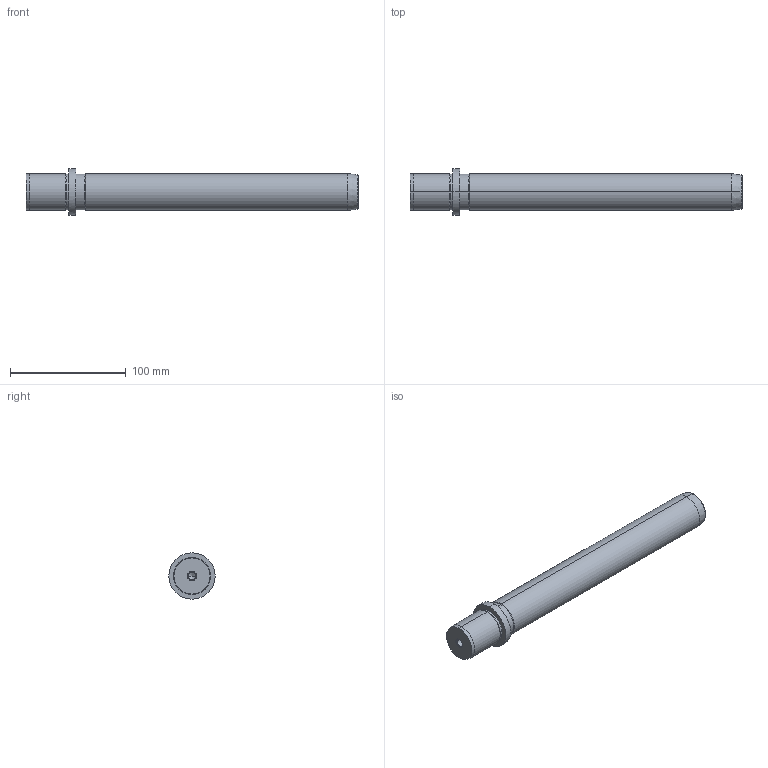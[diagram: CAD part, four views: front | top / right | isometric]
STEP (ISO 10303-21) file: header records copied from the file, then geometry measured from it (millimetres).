
FILE_DESCRIPTION(('CATIA V5 STEP Exchange'),'2;1');
FILE_NAME('C:\Users\Utente\Desktop\IO LAVORO\3D X SITO CF\X SITO\718\718-32x250.stp','2021-01-02T13:02:01+00:00',('none'),('none'),'CATIA Version 5 Release 20 GA (IN-10)','CATIA V5 STEP AP203','none');
FILE_SCHEMA(('CONFIG_CONTROL_DESIGN'));
Length unit declared in the file: millimetre
Products named in the file (1): 718-32x250
Bounding box: 287 x 40 x 40 mm (x, y, z)
Volume: 230650.2 mm3; surface area: 32392.3 mm2
Topology: 1 solids, 1 shells, 36 faces, 100 edges, 66 vertices
Faces by surface type: cone 16, cylinder 14, plane 4, torus 2
Entity records: 1291 total; most frequent: CARTESIAN_POINT 362, ORIENTED_EDGE 192, DIRECTION 157, EDGE_CURVE 96, AXIS2_PLACEMENT_3D 92, VERTEX_POINT 66, CIRCLE 55, EDGE_LOOP 40
